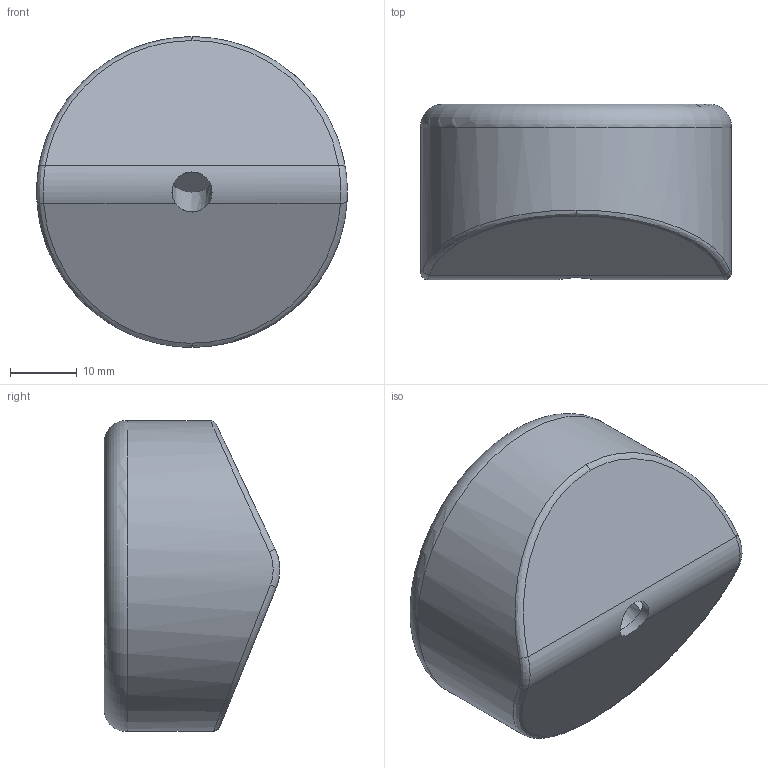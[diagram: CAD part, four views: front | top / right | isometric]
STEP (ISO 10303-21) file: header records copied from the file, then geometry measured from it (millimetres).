
FILE_DESCRIPTION(/* description */ (''),/* implementation_level */ '2;1');
FILE_NAME(/* name */ 'AMTPOD-4.step',/* time_stamp */ '2025-06-19T13:04:08-04:00',/* author */ (''),/* organization */ (''),/* preprocessor_version */ 'ST-DEVELOPER v20.1',/* originating_system */ 'Autodesk Translation Framework v14.10.0.0',/* authorisation */ '');
FILE_SCHEMA (('AUTOMOTIVE_DESIGN { 1 0 10303 214 3 1 1 }'));
Length unit declared in the file: millimetre
Products named in the file (2): Configuration 1; AMT40-02-0001
Assembly tree (1 placements, depth 2):
  Configuration 1
    AMT40-02-0001
Bounding box: 46.5 x 26.29 x 46.5 mm (x, y, z)
Volume: 33735.3 mm3; surface area: 15206.1 mm2
Topology: 1 solids, 19 shells, 902 faces, 2567 edges, 1701 vertices
Faces by surface type: plane 569, cylinder 280, bspline 40, torus 12, cone 1
Full cylindrical faces by diameter (mm): 1.2 x2, 2.8 x2, 6 x1, 6.5 x1, 43 x2, 43.5 x1, 46.5 x1
Entity records: 34071 total; most frequent: CARTESIAN_POINT 10358, ORIENTED_EDGE 5134, DIRECTION 4785, EDGE_CURVE 2567, LINE 1795, VECTOR 1795, VERTEX_POINT 1701, AXIS2_PLACEMENT_3D 1495
